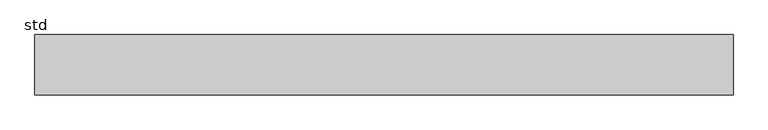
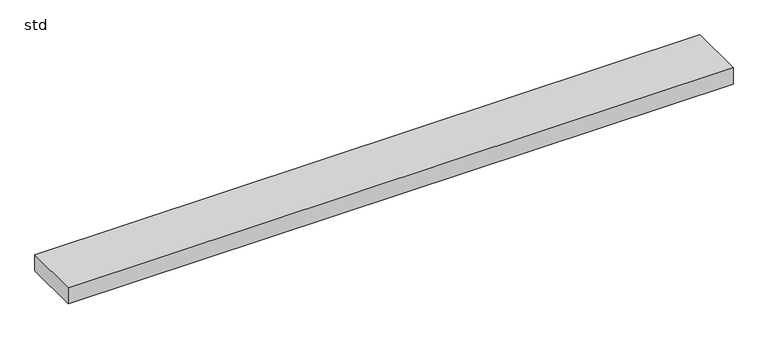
"""IFC4 building model written with IfcOpenShell, lengths in millimetres: proxy geometry, 400_35_NS_betonstrook : std."""

from ifc_helpers import new_model, si_unit, origin, origin_with_axes, place, context, project, spatial, polyline, outline, extrude, source, transform, mapped, element, save


def std_c930b66d(model_context):
    return source(origin(), model_context, "Body", "SweptSolid", [
        extrude(outline(polyline([(-580.0, 0.0), (-580.0, 100.0), (580.0, 100.0), (580.0, 0.0), (-580.0, 0.0)])), origin_with_axes(), (0.0, 0.0, 1.0), 30.0),
    ])


if __name__ == "__main__":
    model = new_model("IFC4")
    model_context = context("Model", 3, world=origin())
    ifc_project = project(units=[si_unit("LENGTHUNIT", "METRE", prefix="MILLI")], contexts=[model_context])
    site = spatial("IfcSite", under=ifc_project)
    building = spatial("IfcBuilding", under=site)
    placement = place(None, origin())
    std_shape = std_c930b66d(model_context)
    element("IfcBuildingElementProxy", 1, Name="400_35_NS_betonstrook : std", ObjectType="400_35_NS_betonstrook : std", at=placement, inside=building, context=model_context, shape_type="MappedRepresentation", body=[
        mapped(std_shape, transform((0.0, 0.0, 0.0), x_axis=(1.0, 0.0, 0.0), y_axis=(0.0, 1.0, 0.0), z_axis=(0.0, 0.0, 1.0))),
    ])
    save(model, "model.ifc")
